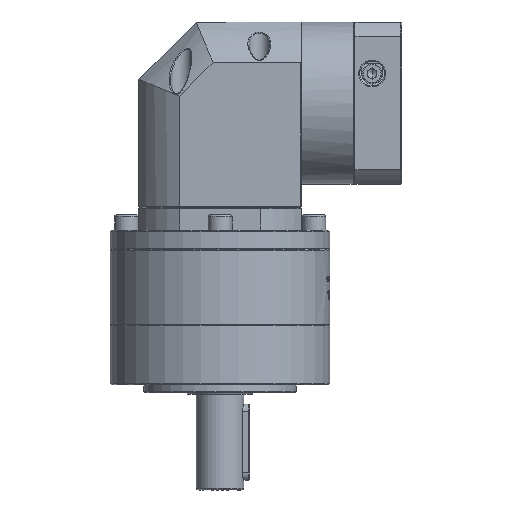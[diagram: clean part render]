
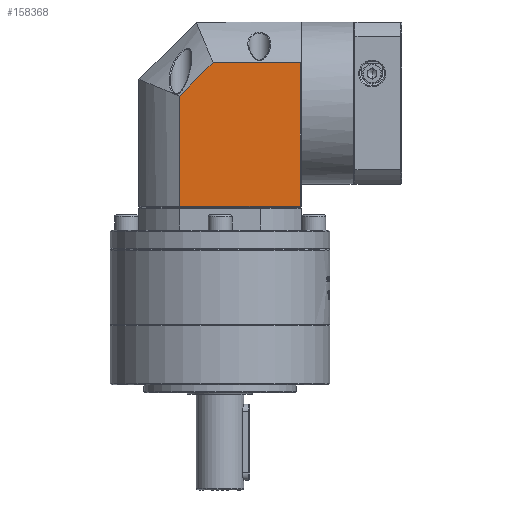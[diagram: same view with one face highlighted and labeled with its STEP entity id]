
A CAD part, front view. The second image highlights one B-rep face of the part: STEP entity #158368.
In plain terms, the highlighted planar face has unit normal (0, -1, 0).
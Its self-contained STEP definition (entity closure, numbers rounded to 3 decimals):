
#2163 = DIRECTION ( 'NONE',  ( -1., 0., 0. ) ) ;
#15584 = VECTOR ( 'NONE', #17122, 1000. ) ;
#17122 = DIRECTION ( 'NONE',  ( 0., 0., 1. ) ) ;
#23576 = CARTESIAN_POINT ( 'NONE',  ( 67.381, 123.903, -10.543 ) ) ;
#24698 = VERTEX_POINT ( 'NONE', #41324 ) ;
#30880 = VECTOR ( 'NONE', #166092, 1000. ) ;
#32256 = CARTESIAN_POINT ( 'NONE',  ( 3.668, 123.903, -10.543 ) ) ;
#38472 = CARTESIAN_POINT ( 'NONE',  ( 67.381, 123.903, 64.67 ) ) ;
#38973 = VERTEX_POINT ( 'NONE', #75419 ) ;
#41324 = CARTESIAN_POINT ( 'NONE',  ( 21.198, 123.903, 64.67 ) ) ;
#48428 = CARTESIAN_POINT ( 'NONE',  ( 66.881, 123.903, 85.957 ) ) ;
#57919 = EDGE_CURVE ( 'NONE', #129798, #168193, #156240, .T. ) ;
#60364 = AXIS2_PLACEMENT_3D ( 'NONE', #85633, #187118, #2163 ) ;
#75419 = CARTESIAN_POINT ( 'NONE',  ( 66.881, 123.903, -10.543 ) ) ;
#76842 = DIRECTION ( 'NONE',  ( 0., 0., -1. ) ) ;
#80043 = VERTEX_POINT ( 'NONE', #98945 ) ;
#83096 = ORIENTED_EDGE ( 'NONE', *, *, #152360, .F. ) ;
#83278 = ORIENTED_EDGE ( 'NONE', *, *, #57919, .F. ) ;
#84987 = PLANE ( 'NONE',  #60364 ) ;
#85297 = LINE ( 'NONE', #23576, #30880 ) ;
#85633 = CARTESIAN_POINT ( 'NONE',  ( 67.381, 123.903, 85.957 ) ) ;
#86788 = ORIENTED_EDGE ( 'NONE', *, *, #90379, .F. ) ;
#90379 = EDGE_CURVE ( 'NONE', #80043, #38973, #172126, .T. ) ;
#98945 = CARTESIAN_POINT ( 'NONE',  ( 66.881, 123.903, 64.67 ) ) ;
#103571 = LINE ( 'NONE', #108387, #183084 ) ;
#105629 = EDGE_CURVE ( 'NONE', #24698, #80043, #177998, .T. ) ;
#108387 = CARTESIAN_POINT ( 'NONE',  ( 3.668, 123.903, 47.14 ) ) ;
#116707 = VECTOR ( 'NONE', #140415, 1000. ) ;
#123577 = CARTESIAN_POINT ( 'NONE',  ( 3.668, 123.903, 47.14 ) ) ;
#129798 = VERTEX_POINT ( 'NONE', #32256 ) ;
#130976 = EDGE_LOOP ( 'NONE', ( #133082, #86788, #131560, #83096, #83278 ) ) ;
#131560 = ORIENTED_EDGE ( 'NONE', *, *, #105629, .F. ) ;
#133082 = ORIENTED_EDGE ( 'NONE', *, *, #160133, .T. ) ;
#140415 = DIRECTION ( 'NONE',  ( 1., 0., 0. ) ) ;
#152360 = EDGE_CURVE ( 'NONE', #168193, #24698, #103571, .T. ) ;
#156240 = LINE ( 'NONE', #175439, #15584 ) ;
#158368 = ADVANCED_FACE ( 'NONE', ( #163605 ), #84987, .F. ) ;
#160133 = EDGE_CURVE ( 'NONE', #129798, #38973, #85297, .T. ) ;
#163605 = FACE_OUTER_BOUND ( 'NONE', #130976, .T. ) ;
#164876 = DIRECTION ( 'NONE',  ( 0.707, 0., 0.707 ) ) ;
#166092 = DIRECTION ( 'NONE',  ( 1., 0., 0. ) ) ;
#168193 = VERTEX_POINT ( 'NONE', #123577 ) ;
#172126 = LINE ( 'NONE', #48428, #183392 ) ;
#175439 = CARTESIAN_POINT ( 'NONE',  ( 3.668, 123.903, 85.957 ) ) ;
#177998 = LINE ( 'NONE', #38472, #116707 ) ;
#183084 = VECTOR ( 'NONE', #164876, 1000. ) ;
#183392 = VECTOR ( 'NONE', #76842, 1000. ) ;
#187118 = DIRECTION ( 'NONE',  ( 0., 1., 0. ) ) ;
